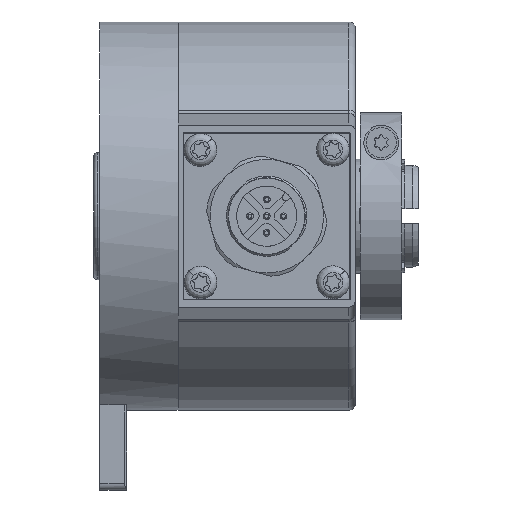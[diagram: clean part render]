
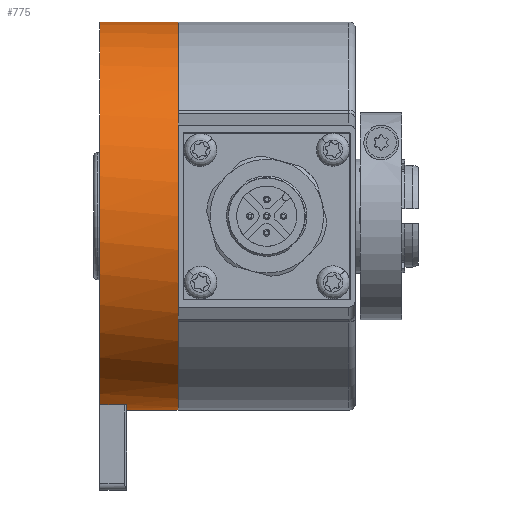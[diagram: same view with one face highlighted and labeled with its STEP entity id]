
A CAD part, front view. The second image highlights one B-rep face of the part: STEP entity #775.
In plain terms, the highlighted cylindrical face has radius 29 mm (diameter 58 mm), a partial arc.
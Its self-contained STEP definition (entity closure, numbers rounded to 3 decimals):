
#250 = ORIENTED_EDGE ( 'NONE', *, *, #10704, .F. ) ;
#702 = VERTEX_POINT ( 'NONE', #3092 ) ;
#775 = ADVANCED_FACE ( 'NONE', ( #11883 ), #7767, .T. ) ;
#1738 = DIRECTION ( 'NONE',  ( 1., 0., 0. ) ) ;
#1972 = ORIENTED_EDGE ( 'NONE', *, *, #13841, .T. ) ;
#2096 = CARTESIAN_POINT ( 'NONE',  ( 0.378, 25.423, 0. ) ) ;
#2199 = CIRCLE ( 'NONE', #12448, 29. ) ;
#2500 = VECTOR ( 'NONE', #10778, 1000. ) ;
#2715 = EDGE_CURVE ( 'NONE', #9383, #9624, #17542, .T. ) ;
#3092 = CARTESIAN_POINT ( 'NONE',  ( 0.378, 18.423, -28.142 ) ) ;
#3292 = CARTESIAN_POINT ( 'NONE',  ( 8.068, 25.423, 29. ) ) ;
#3357 = VECTOR ( 'NONE', #9408, 1000. ) ;
#3820 = CARTESIAN_POINT ( 'NONE',  ( 8.068, 25.423, -29. ) ) ;
#4175 = AXIS2_PLACEMENT_3D ( 'NONE', #6308, #14623, #17461 ) ;
#4948 = DIRECTION ( 'NONE',  ( 0., 0., 1. ) ) ;
#5071 = EDGE_LOOP ( 'NONE', ( #17878, #1972, #17422, #6035, #6436, #250 ) ) ;
#5175 = DIRECTION ( 'NONE',  ( -1., 0., 0. ) ) ;
#5198 = CARTESIAN_POINT ( 'NONE',  ( 8.068, 25.423, 29. ) ) ;
#5289 = LINE ( 'NONE', #5198, #2500 ) ;
#6035 = ORIENTED_EDGE ( 'NONE', *, *, #12048, .T. ) ;
#6165 = CARTESIAN_POINT ( 'NONE',  ( 0.378, 25.423, -29. ) ) ;
#6308 = CARTESIAN_POINT ( 'NONE',  ( 8.068, 25.423, 0. ) ) ;
#6436 = ORIENTED_EDGE ( 'NONE', *, *, #2715, .T. ) ;
#6454 = DIRECTION ( 'NONE',  ( 1., 0., 0. ) ) ;
#6935 = AXIS2_PLACEMENT_3D ( 'NONE', #2096, #1738, #4948 ) ;
#7767 = CYLINDRICAL_SURFACE ( 'NONE', #4175, 29. ) ;
#8674 = VERTEX_POINT ( 'NONE', #15406 ) ;
#9104 = CARTESIAN_POINT ( 'NONE',  ( 8.068, 18.423, -28.142 ) ) ;
#9383 = VERTEX_POINT ( 'NONE', #6165 ) ;
#9408 = DIRECTION ( 'NONE',  ( 1., 0., 0. ) ) ;
#9624 = VERTEX_POINT ( 'NONE', #14646 ) ;
#10242 = EDGE_CURVE ( 'NONE', #12559, #14570, #5289, .T. ) ;
#10704 = EDGE_CURVE ( 'NONE', #14570, #9624, #14811, .T. ) ;
#10778 = DIRECTION ( 'NONE',  ( 1., 0., 0. ) ) ;
#10968 = DIRECTION ( 'NONE',  ( 0., 0., -1. ) ) ;
#11883 = FACE_OUTER_BOUND ( 'NONE', #5071, .T. ) ;
#11935 = CARTESIAN_POINT ( 'NONE',  ( 8.068, 25.423, 0. ) ) ;
#12048 = EDGE_CURVE ( 'NONE', #702, #9383, #14829, .T. ) ;
#12355 = CARTESIAN_POINT ( 'NONE',  ( -3.622, 25.423, 0. ) ) ;
#12448 = AXIS2_PLACEMENT_3D ( 'NONE', #12355, #13539, #10968 ) ;
#12559 = VERTEX_POINT ( 'NONE', #15915 ) ;
#13539 = DIRECTION ( 'NONE',  ( 1., 0., 0. ) ) ;
#13841 = EDGE_CURVE ( 'NONE', #12559, #8674, #2199, .T. ) ;
#14570 = VERTEX_POINT ( 'NONE', #3292 ) ;
#14623 = DIRECTION ( 'NONE',  ( 1., 0., 0. ) ) ;
#14646 = CARTESIAN_POINT ( 'NONE',  ( 8.068, 25.423, -29. ) ) ;
#14811 = CIRCLE ( 'NONE', #15696, 29. ) ;
#14829 = CIRCLE ( 'NONE', #6935, 29. ) ;
#15406 = CARTESIAN_POINT ( 'NONE',  ( -3.622, 18.423, -28.142 ) ) ;
#15696 = AXIS2_PLACEMENT_3D ( 'NONE', #11935, #6454, #17509 ) ;
#15915 = CARTESIAN_POINT ( 'NONE',  ( -3.622, 25.423, 29. ) ) ;
#16434 = LINE ( 'NONE', #9104, #16540 ) ;
#16540 = VECTOR ( 'NONE', #5175, 1000. ) ;
#16969 = EDGE_CURVE ( 'NONE', #702, #8674, #16434, .T. ) ;
#17422 = ORIENTED_EDGE ( 'NONE', *, *, #16969, .F. ) ;
#17461 = DIRECTION ( 'NONE',  ( 0., 0., -1. ) ) ;
#17509 = DIRECTION ( 'NONE',  ( 0., 0., -1. ) ) ;
#17542 = LINE ( 'NONE', #3820, #3357 ) ;
#17878 = ORIENTED_EDGE ( 'NONE', *, *, #10242, .F. ) ;
